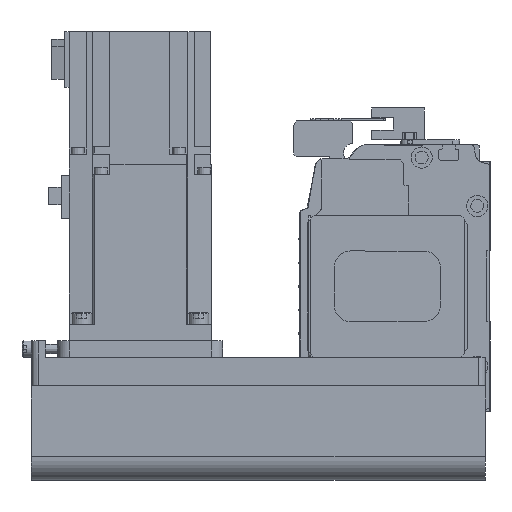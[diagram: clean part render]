
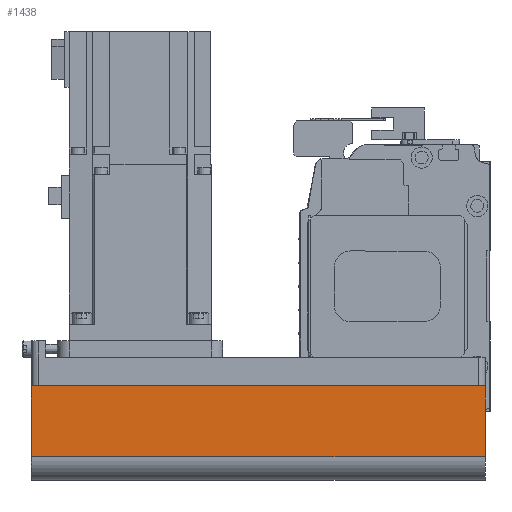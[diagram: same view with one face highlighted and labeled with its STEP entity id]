
A CAD part, left-side view. The second image highlights one B-rep face of the part: STEP entity #1438.
In plain terms, the highlighted planar face has unit normal (-1, 0, 0) as drawn and (0, -1, 0) by its records, which use the part's own axes.
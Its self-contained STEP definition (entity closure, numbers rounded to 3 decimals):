
#1438 = ADVANCED_FACE( '', ( #3356 ), #3357, .T. );
#3356 = FACE_OUTER_BOUND( '', #5892, .T. );
#3357 = PLANE( '', #5893 );
#5892 = EDGE_LOOP( '', ( #9938, #9939, #9940, #9941 ) );
#5893 = AXIS2_PLACEMENT_3D( '', #9942, #9943, #9944 );
#9938 = ORIENTED_EDGE( '', *, *, #14626, .F. );
#9939 = ORIENTED_EDGE( '', *, *, #15515, .F. );
#9940 = ORIENTED_EDGE( '', *, *, #14783, .T. );
#9941 = ORIENTED_EDGE( '', *, *, #15516, .T. );
#9942 = CARTESIAN_POINT( '', ( -192., -40., -12.1 ) );
#9943 = DIRECTION( '', ( 0., -1., 0. ) );
#9944 = DIRECTION( '', ( 0., 0., -1. ) );
#14626 = EDGE_CURVE( '', #17528, #17530, #17531, .T. );
#14783 = EDGE_CURVE( '', #17784, #17792, #17794, .T. );
#15515 = EDGE_CURVE( '', #17784, #17528, #18960, .T. );
#15516 = EDGE_CURVE( '', #17792, #17530, #18961, .T. );
#17528 = VERTEX_POINT( '', #21559 );
#17530 = VERTEX_POINT( '', #21562 );
#17531 = LINE( '', #21563, #21564 );
#17784 = VERTEX_POINT( '', #21894 );
#17792 = VERTEX_POINT( '', #21905 );
#17794 = LINE( '', #21907, #21908 );
#18960 = LINE( '', #23489, #23490 );
#18961 = LINE( '', #23491, #23492 );
#21559 = CARTESIAN_POINT( '', ( 0., -40., -12.1 ) );
#21562 = CARTESIAN_POINT( '', ( 0., -40., -42. ) );
#21563 = CARTESIAN_POINT( '', ( 0., -40., -12.1 ) );
#21564 = VECTOR( '', #26101, 1000. );
#21894 = CARTESIAN_POINT( '', ( -192., -40., -12.1 ) );
#21905 = CARTESIAN_POINT( '', ( -192., -40., -42. ) );
#21907 = CARTESIAN_POINT( '', ( -192., -40., -12.1 ) );
#21908 = VECTOR( '', #26299, 1000. );
#23489 = CARTESIAN_POINT( '', ( -192., -40., -12.1 ) );
#23490 = VECTOR( '', #27234, 1000. );
#23491 = CARTESIAN_POINT( '', ( -192., -40., -42. ) );
#23492 = VECTOR( '', #27235, 1000. );
#26101 = DIRECTION( '', ( 0., 0., -1. ) );
#26299 = DIRECTION( '', ( 0., 0., -1. ) );
#27234 = DIRECTION( '', ( 1., 0., 0. ) );
#27235 = DIRECTION( '', ( 1., 0., 0. ) );
